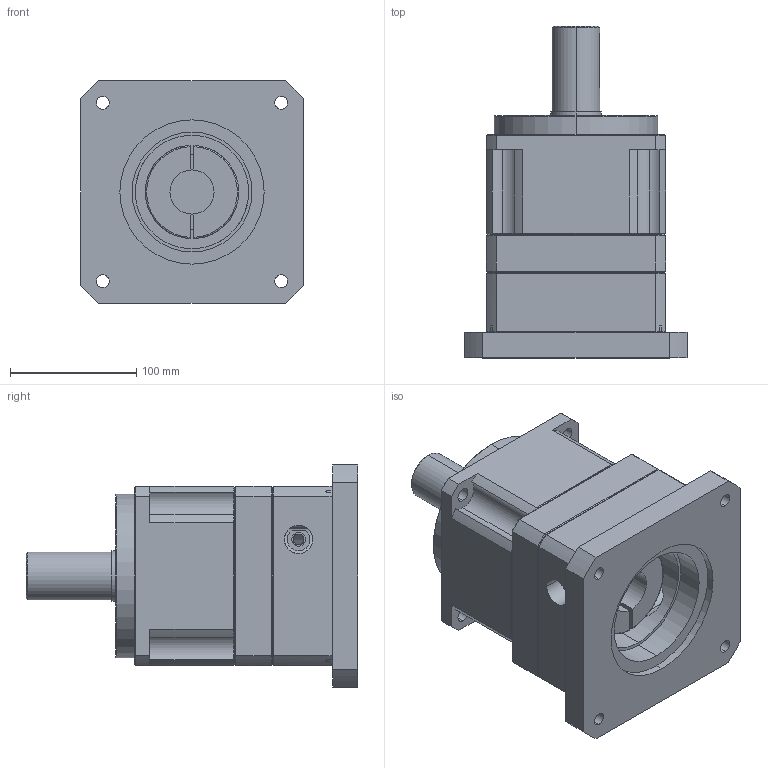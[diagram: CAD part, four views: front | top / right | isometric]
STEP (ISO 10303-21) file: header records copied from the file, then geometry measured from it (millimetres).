
FILE_DESCRIPTION (( 'STEP AP203' ), '1' );
FILE_NAME ('MF150H-L1｣r114.3PCD｣r200M12 - ｽﾆｻs.STEP', '2014-09-09T02:58:29', ( 'KELLY' ), ( '' ), 'SwSTEP 2.0', 'SolidWorks 2012', '' );
FILE_SCHEMA (( 'CONFIG_CONTROL_DESIGN' ));
Length unit declared in the file: millimetre
Products named in the file (1): MF150H-L1£r114.3PCD£r200M12 - ½Æ»s
Bounding box: 176 x 263 x 176 mm (x, y, z)
Volume: 3365426.6 mm3; surface area: 275220.4 mm2
Topology: 2 solids, 6 shells, 241 faces, 581 edges, 355 vertices
Faces by surface type: cylinder 103, plane 80, cone 52, torus 6
Entity records: 7739 total; most frequent: CARTESIAN_POINT 2031, DIRECTION 1207, ORIENTED_EDGE 1142, EDGE_CURVE 571, AXIS2_PLACEMENT_3D 482, VERTEX_POINT 355, EDGE_LOOP 282, LINE 243
